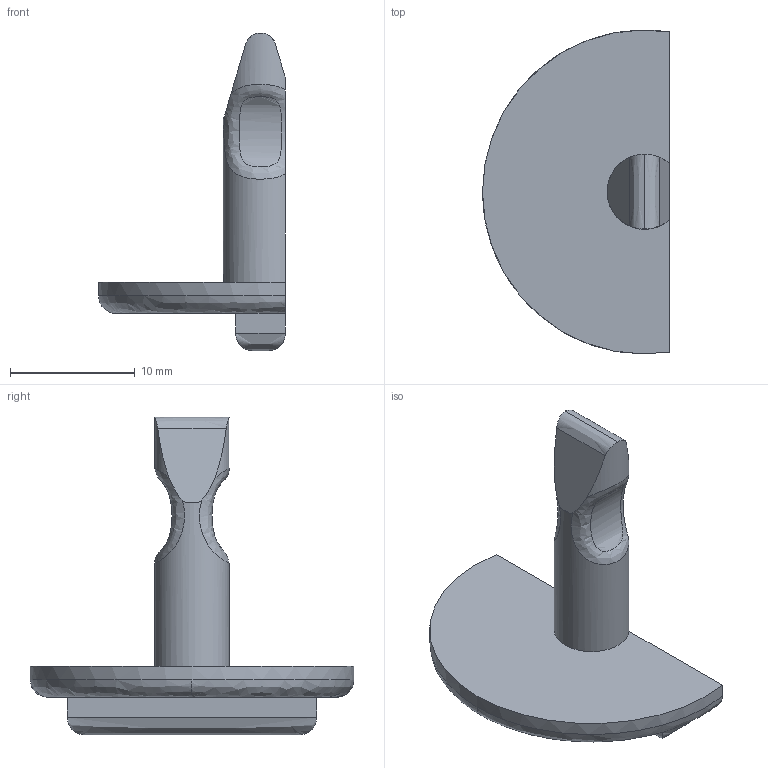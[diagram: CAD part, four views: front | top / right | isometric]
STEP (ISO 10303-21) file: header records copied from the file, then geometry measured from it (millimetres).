
FILE_DESCRIPTION(/* description */ (''),/* implementation_level */ '2;1');
FILE_NAME(/* name */ 'C:/Users/chriz/Documents/3d Printing/Car/Mitsubishi Twist Lock/Misubishi Twist Lock v4.step',/* time_stamp */ '2020-05-06T18:44:15+02:00',/* author */ (''),/* organization */ (''),/* preprocessor_version */ 'ST-DEVELOPER v18.1',/* originating_system */ 'Autodesk Translation Framework v9.2.0.1227',/* authorisation */ '');
FILE_SCHEMA (('AUTOMOTIVE_DESIGN { 1 0 10303 214 3 1 1 }'));
Length unit declared in the file: millimetre
Products named in the file (1): Misubishi Twist Lock
Bounding box: 15 x 26 x 25.5 mm (x, y, z)
Volume: 1416.4 mm3; surface area: 1229.6 mm2
Topology: 1 solids, 1 shells, 27 faces, 73 edges, 48 vertices
Faces by surface type: bspline 12, plane 11, cylinder 4
Entity records: 1645 total; most frequent: CARTESIAN_POINT 1037, ORIENTED_EDGE 146, DIRECTION 77, EDGE_CURVE 73, VERTEX_POINT 48, B_SPLINE_CURVE_WITH_KNOTS 41, AXIS2_PLACEMENT_3D 29, FACE_OUTER_BOUND 27
